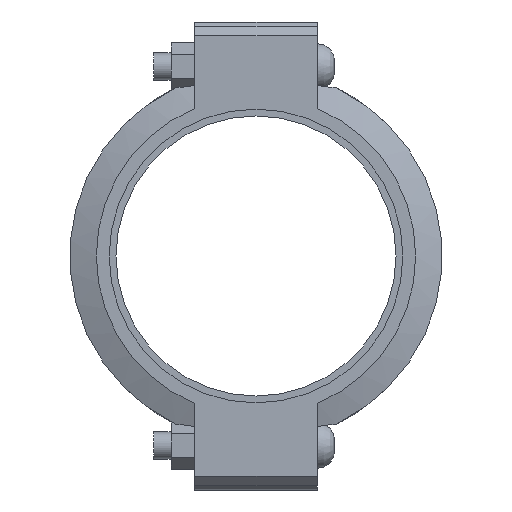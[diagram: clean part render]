
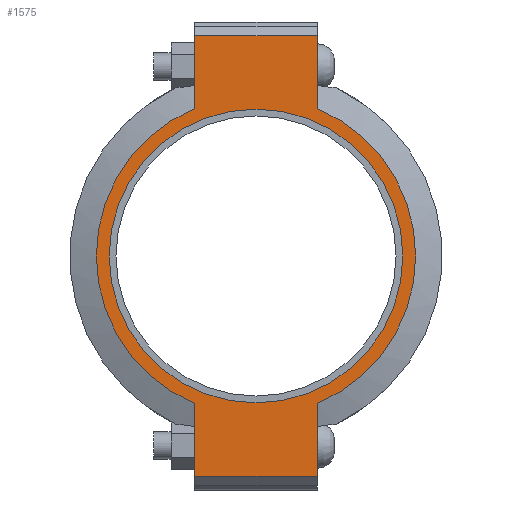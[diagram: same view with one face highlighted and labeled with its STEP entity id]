
A CAD part, left-side view. The second image highlights one B-rep face of the part: STEP entity #1575.
In plain terms, the highlighted planar face has unit normal (-1, 0, 0) as drawn and (0, 0, 1) by its records, which use the part's own axes.
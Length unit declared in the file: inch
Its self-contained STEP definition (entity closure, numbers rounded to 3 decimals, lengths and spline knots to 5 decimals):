
#202=LINE('',#2687,#289);
#213=LINE('',#2738,#300);
#219=LINE('',#2764,#306);
#221=LINE('',#2767,#308);
#222=LINE('',#2772,#309);
#223=LINE('',#2773,#310);
#289=VECTOR('',#2165,0.3937);
#300=VECTOR('',#2196,0.3937);
#306=VECTOR('',#2214,0.3937);
#308=VECTOR('',#2218,0.3937);
#309=VECTOR('',#2223,0.3937);
#310=VECTOR('',#2224,0.3937);
#368=FACE_BOUND('',#527,.T.);
#428=FACE_OUTER_BOUND('',#526,.T.);
#526=EDGE_LOOP('',(#1264,#1265,#1266,#1267,#1268,#1269,#1270,#1271));
#527=EDGE_LOOP('',(#1272));
#632=CIRCLE('',#1820,5.845);
#633=CIRCLE('',#1821,5.845);
#634=CIRCLE('',#1822,5.375);
#741=VERTEX_POINT('',#2684);
#742=VERTEX_POINT('',#2686);
#759=VERTEX_POINT('',#2733);
#760=VERTEX_POINT('',#2737);
#767=VERTEX_POINT('',#2759);
#768=VERTEX_POINT('',#2763);
#769=VERTEX_POINT('',#2769);
#770=VERTEX_POINT('',#2771);
#771=VERTEX_POINT('',#2775);
#911=EDGE_CURVE('',#742,#741,#202,.T.);
#932=EDGE_CURVE('',#760,#759,#213,.T.);
#943=EDGE_CURVE('',#768,#767,#219,.T.);
#945=EDGE_CURVE('',#768,#741,#221,.T.);
#946=EDGE_CURVE('',#767,#769,#632,.T.);
#947=EDGE_CURVE('',#769,#770,#222,.T.);
#948=EDGE_CURVE('',#760,#770,#223,.T.);
#949=EDGE_CURVE('',#759,#742,#633,.T.);
#950=EDGE_CURVE('',#771,#771,#634,.T.);
#1264=ORIENTED_EDGE('',*,*,#945,.F.);
#1265=ORIENTED_EDGE('',*,*,#943,.T.);
#1266=ORIENTED_EDGE('',*,*,#946,.T.);
#1267=ORIENTED_EDGE('',*,*,#947,.T.);
#1268=ORIENTED_EDGE('',*,*,#948,.F.);
#1269=ORIENTED_EDGE('',*,*,#932,.T.);
#1270=ORIENTED_EDGE('',*,*,#949,.T.);
#1271=ORIENTED_EDGE('',*,*,#911,.T.);
#1272=ORIENTED_EDGE('',*,*,#950,.T.);
#1427=PLANE('',#1819);
#1575=ADVANCED_FACE('',(#428,#368),#1427,.T.);
#1819=AXIS2_PLACEMENT_3D('',#2768,#2219,#2220);
#1820=AXIS2_PLACEMENT_3D('',#2770,#2221,#2222);
#1821=AXIS2_PLACEMENT_3D('',#2774,#2225,#2226);
#1822=AXIS2_PLACEMENT_3D('',#2776,#2227,#2228);
#2165=DIRECTION('',(-1.,0.,0.));
#2196=DIRECTION('',(-1.,0.,0.));
#2214=DIRECTION('',(1.,0.,0.));
#2218=DIRECTION('',(0.,1.,0.));
#2219=DIRECTION('center_axis',(0.,0.,1.));
#2220=DIRECTION('ref_axis',(1.,0.,0.));
#2221=DIRECTION('center_axis',(0.,0.,1.));
#2222=DIRECTION('ref_axis',(-1.,0.,0.));
#2223=DIRECTION('',(1.,0.,0.));
#2224=DIRECTION('',(0.,-1.,0.));
#2225=DIRECTION('center_axis',(0.,0.,1.));
#2226=DIRECTION('ref_axis',(-1.,0.,0.));
#2227=DIRECTION('center_axis',(0.,0.,-1.));
#2228=DIRECTION('ref_axis',(-1.,0.,0.));
#2684=CARTESIAN_POINT('',(-8.065,2.25,1.315));
#2686=CARTESIAN_POINT('',(-5.39458,2.25,1.315));
#2687=CARTESIAN_POINT('',(8.565,2.25,1.315));
#2733=CARTESIAN_POINT('',(5.39458,2.25,1.315));
#2737=CARTESIAN_POINT('',(8.065,2.25,1.315));
#2738=CARTESIAN_POINT('',(8.565,2.25,1.315));
#2759=CARTESIAN_POINT('',(-5.39458,-2.25,1.315));
#2763=CARTESIAN_POINT('',(-8.065,-2.25,1.315));
#2764=CARTESIAN_POINT('',(-8.565,-2.25,1.315));
#2767=CARTESIAN_POINT('',(-8.065,1.125,1.315));
#2768=CARTESIAN_POINT('Origin',(0.,0.,
1.315));
#2769=CARTESIAN_POINT('',(5.39458,-2.25,1.315));
#2770=CARTESIAN_POINT('Origin',(0.,0.,1.315));
#2771=CARTESIAN_POINT('',(8.065,-2.25,1.315));
#2772=CARTESIAN_POINT('',(-8.565,-2.25,1.315));
#2773=CARTESIAN_POINT('',(8.065,-1.125,1.315));
#2774=CARTESIAN_POINT('Origin',(0.,0.,1.315));
#2775=CARTESIAN_POINT('',(5.375,0.,1.315));
#2776=CARTESIAN_POINT('Origin',(0.,0.,1.315));
